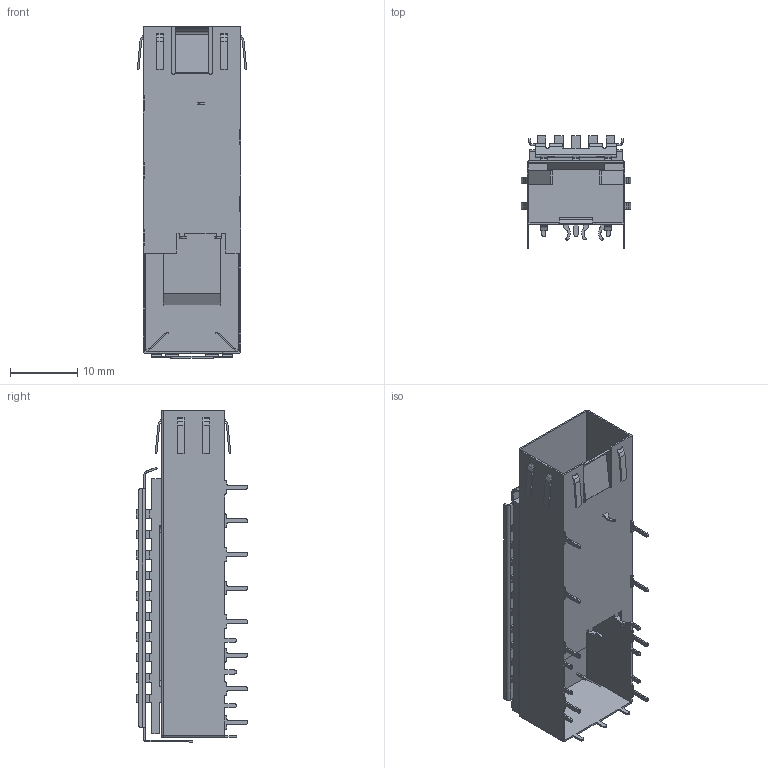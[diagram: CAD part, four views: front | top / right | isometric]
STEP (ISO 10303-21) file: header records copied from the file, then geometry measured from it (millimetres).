
FILE_DESCRIPTION(/* description */ (''),/* implementation_level */ '2;1');
FILE_NAME(/* name */ 'SFP 1X1 焊接脚 有月牙 散热器13.5 3D.stp',/* time_stamp */ '2026-06-17T08:54:57+08:00',/* author */ (''),/* organization */ (''),/* preprocessor_version */ 'ST-DEVELOPER v16.7',/* originating_system */ 'SIEMENS PLM Software NX 1847',/* authorisation */ '');
FILE_SCHEMA (('AUTOMOTIVE_DESIGN { 1 0 10303 214 3 1 1 1 }'));
Length unit declared in the file: millimetre
Products named in the file (1): Admi28840297r3mn
Bounding box: 16.3 x 16.65 x 49.42 mm (x, y, z)
Volume: 1771.1 mm3; surface area: 7050.7 mm2
Topology: 3 solids, 3 shells, 755 faces, 2132 edges, 1388 vertices
Faces by surface type: plane 569, cylinder 176, bspline 8, sphere 2
Entity records: 24312 total; most frequent: CARTESIAN_POINT 4481, ORIENTED_EDGE 4260, DIRECTION 3960, EDGE_CURVE 2130, LINE 1758, VECTOR 1758, VERTEX_POINT 1388, AXIS2_PLACEMENT_3D 1101
